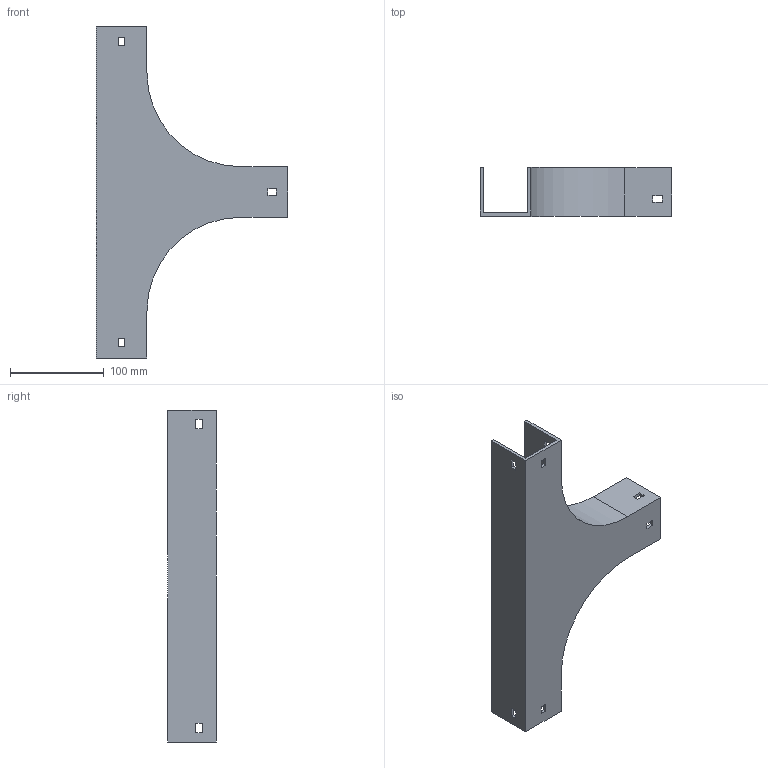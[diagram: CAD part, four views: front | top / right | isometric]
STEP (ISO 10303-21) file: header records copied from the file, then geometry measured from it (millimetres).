
FILE_DESCRIPTION (( 'STEP AP214' ), '1' );
FILE_NAME ('15B1B050.step', '2025-02-21T09:53:59', ( '' ), ( '' ), 'SwSTEP 2.0', 'SolidWorks 2023', '' );
FILE_SCHEMA (( 'AUTOMOTIVE_DESIGN' ));
Length unit declared in the file: millimetre
Products named in the file (1): 15B1B050
Bounding box: 204 x 52 x 354 mm (x, y, z)
Volume: 256497.2 mm3; surface area: 152233.4 mm2
Topology: 1 solids, 1 shells, 58 faces, 168 edges, 112 vertices
Faces by surface type: plane 54, cylinder 4
Entity records: 1939 total; most frequent: CARTESIAN_POINT 339, ORIENTED_EDGE 336, DIRECTION 294, EDGE_CURVE 168, VECTOR 160, LINE 160, VERTEX_POINT 112, EDGE_LOOP 76
